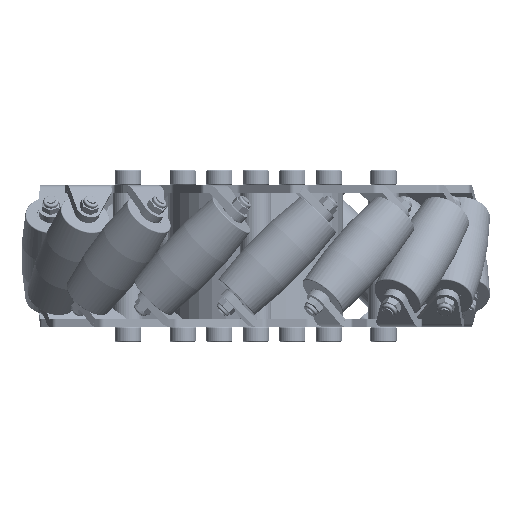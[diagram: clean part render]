
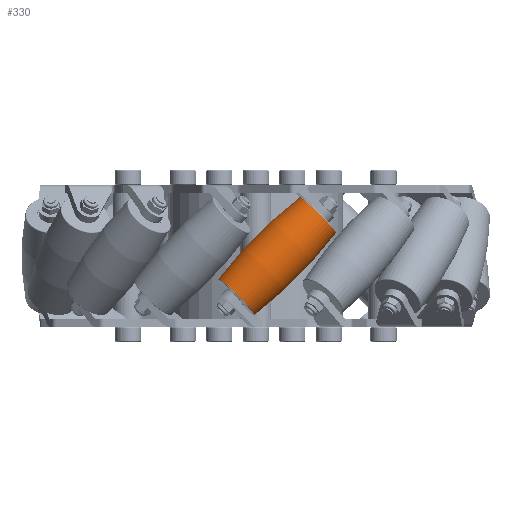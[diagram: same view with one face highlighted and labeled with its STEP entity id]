
A CAD part, left-side view. The second image highlights one B-rep face of the part: STEP entity #330.
In plain terms, the highlighted toroidal (fillet/blend) face has major radius 137.5 mm and minor radius 147 mm.
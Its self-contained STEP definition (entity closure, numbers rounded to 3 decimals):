
#330 = ADVANCED_FACE ( 'NONE', ( #7713 ), #17387, .T. ) ;
#588 = AXIS2_PLACEMENT_3D ( 'NONE', #6276, #14977, #12052 ) ;
#615 = CARTESIAN_POINT ( 'NONE',  ( -97.227, 66.7, -97.227 ) ) ;
#813 = CARTESIAN_POINT ( 'NONE',  ( -7.42, 66.7, 19.15 ) ) ;
#864 = CARTESIAN_POINT ( 'NONE',  ( 13.285, 66.7, -13.285 ) ) ;
#2904 = CARTESIAN_POINT ( 'NONE',  ( 7.42, 66.7, -19.15 ) ) ;
#2913 = ORIENTED_EDGE ( 'NONE', *, *, #16906, .T. ) ;
#3402 = AXIS2_PLACEMENT_3D ( 'NONE', #864, #5322, #15431 ) ;
#3559 = VERTEX_POINT ( 'NONE', #813 ) ;
#3903 = VERTEX_POINT ( 'NONE', #10734 ) ;
#5322 = DIRECTION ( 'NONE',  ( -0.707, 0., 0.707 ) ) ;
#6136 = EDGE_CURVE ( 'NONE', #8586, #3559, #11622, .T. ) ;
#6276 = CARTESIAN_POINT ( 'NONE',  ( 97.227, 66.7, 97.227 ) ) ;
#6689 = CIRCLE ( 'NONE', #3402, 8.294 ) ;
#6796 = AXIS2_PLACEMENT_3D ( 'NONE', #18640, #18536, #11375 ) ;
#6978 = ORIENTED_EDGE ( 'NONE', *, *, #16537, .F. ) ;
#7082 = ORIENTED_EDGE ( 'NONE', *, *, #15462, .T. ) ;
#7528 = DIRECTION ( 'NONE',  ( -0.707, 0., -0.707 ) ) ;
#7713 = FACE_OUTER_BOUND ( 'NONE', #18658, .T. ) ;
#8539 = CIRCLE ( 'NONE', #11858, 147. ) ;
#8586 = VERTEX_POINT ( 'NONE', #9769 ) ;
#9769 = CARTESIAN_POINT ( 'NONE',  ( -19.15, 66.7, 7.42 ) ) ;
#9972 = DIRECTION ( 'NONE',  ( 0., -1., 0. ) ) ;
#10571 = CIRCLE ( 'NONE', #588, 147. ) ;
#10734 = CARTESIAN_POINT ( 'NONE',  ( 19.15, 66.7, -7.42 ) ) ;
#11223 = ORIENTED_EDGE ( 'NONE', *, *, #6136, .T. ) ;
#11375 = DIRECTION ( 'NONE',  ( -0.707, 0., -0.707 ) ) ;
#11622 = CIRCLE ( 'NONE', #6796, 8.294 ) ;
#11858 = AXIS2_PLACEMENT_3D ( 'NONE', #615, #9972, #15551 ) ;
#12052 = DIRECTION ( 'NONE',  ( -1., 0., 0. ) ) ;
#12802 = VERTEX_POINT ( 'NONE', #2904 ) ;
#13481 = CARTESIAN_POINT ( 'NONE',  ( 0., 66.7, 0. ) ) ;
#14613 = DIRECTION ( 'NONE',  ( -0.707, 0., 0.707 ) ) ;
#14977 = DIRECTION ( 'NONE',  ( 0., 1., 0. ) ) ;
#15284 = AXIS2_PLACEMENT_3D ( 'NONE', #13481, #14613, #7528 ) ;
#15431 = DIRECTION ( 'NONE',  ( 0.707, 0., 0.707 ) ) ;
#15462 = EDGE_CURVE ( 'NONE', #12802, #8586, #10571, .T. ) ;
#15551 = DIRECTION ( 'NONE',  ( 0., 0., -1. ) ) ;
#16537 = EDGE_CURVE ( 'NONE', #3903, #3559, #8539, .T. ) ;
#16906 = EDGE_CURVE ( 'NONE', #3903, #12802, #6689, .T. ) ;
#17387 = TOROIDAL_SURFACE ( 'NONE', #15284, -137.5, 147. ) ;
#18536 = DIRECTION ( 'NONE',  ( 0.707, 0., -0.707 ) ) ;
#18640 = CARTESIAN_POINT ( 'NONE',  ( -13.285, 66.7, 13.285 ) ) ;
#18658 = EDGE_LOOP ( 'NONE', ( #2913, #7082, #11223, #6978 ) ) ;
